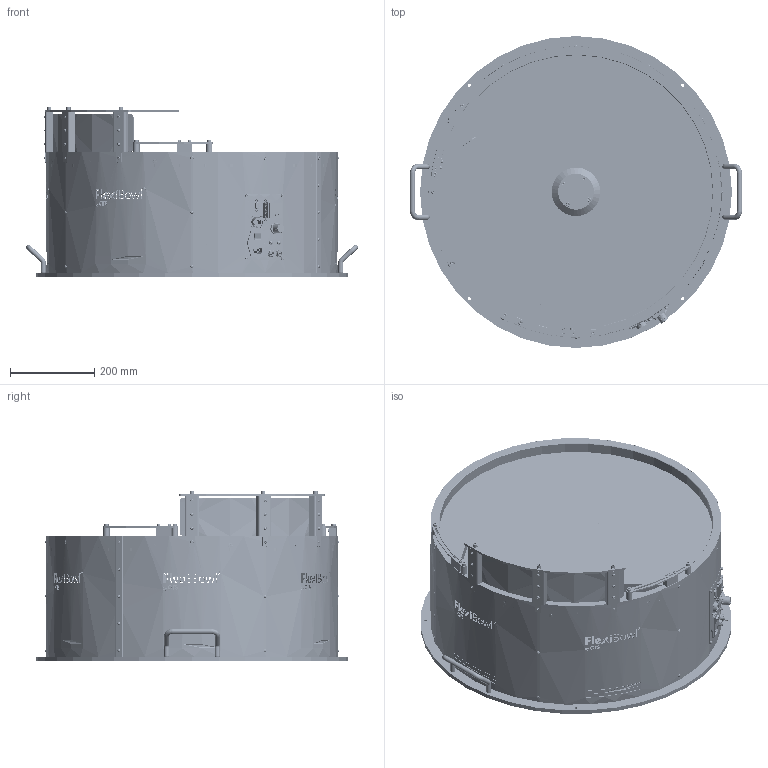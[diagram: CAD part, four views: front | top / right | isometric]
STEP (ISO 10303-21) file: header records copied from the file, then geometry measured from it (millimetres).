
FILE_DESCRIPTION (( 'STEP AP214' ), '1' );
FILE_NAME ('FB650C.STEP', '2021-09-09T13:27:33', ( '' ), ( '' ), 'SwSTEP 2.0', 'SolidWorks 2020', '' );
FILE_SCHEMA (( 'AUTOMOTIVE_DESIGN' ));
Length unit declared in the file: millimetre
Products named in the file (70): PD001120; PD001742; CM000032; CM000015; Copia di connector_amet-15rs^CE000302; PD001119; PD001583; PD001654; CM000024; CM000025; CM000015_001; CM000686; CM000008; CE000007; CM000166; CM000686_002; CM000027; Copia di 39-01-2045^CE000326; PD001122; CM000006; CM000008_002; PD001794; PD001741; CM000050; PD001103; PD001121; PD001440; Copia di Led RDY_FLT^CE000326; PD001360_FB650; CM000170; CM000642; CE000326; PD000032; CM000035; CE000302; PD001356; Copia di CE000327^CE000327; CM000001; Copia di 39-01-2025^CE000302; CM000015_002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
Assembly tree (200 placements, depth 3):
  FB650C
    CM000032  x4
    CM000048  x28
    CM000031  x9
    CM000050  x3
    CM000170  x6
    CM000166  x8
    CM000642  x4
    CM000035  x4
    CM000027  x4
    CM000478  x9
    CM000091  x2
    CM000086  x15
    CM000051  x4
    CM000025  x4
    CM000043  x2
    CM000026  x10
    CM000024  x10
    CM000006  x4
    PD001096
    CM000001  x2
    PD001742
    PD001440  x6
    PD001741
    PD001736  x2
    PD001654
    PD001356
    PD000709
    PD001794
    PD000032
    PD001102
    PD001103
    PD001585  x3
    PD001583  x3
    PD001061
    PD000043  x4
    PD001121  x2
    PD001119  x2
    PD001122
    PD001120
    PD001360_FB650
    CE000007
    CM000015  x2
      CM000015_001
      CM000015_002
    CE000013  x2
    CE000005
    CM000008
      CM000008_001
      CM000008_003  x2
      CM000008_002
      CM000008_004
      CM000008_005
    CE000302
      Copia di connector_a-ds_25_pp-f^CE000302
      Copia di 15 poli femmina^CE000302
      Copia di connector_amet-15rs^CE000302
      Copia di Connettore te 2 poli - Copia^CE000302
      Copia di 39-01-2025^CE000302
    CM000686
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Bounding box: 787.87 x 740 x 402.5 mm (x, y, z)
Volume: 10664682.5 mm3; surface area: 4435106.4 mm2
Topology: 208 solids, 208 shells, 10286 faces, 26364 edges, 16861 vertices
Faces by surface type: plane 5233, cylinder 2382, cone 1239, bspline 861, torus 531, sphere 40
Entity records: 311151 total; most frequent: CARTESIAN_POINT 98023, ORIENTED_EDGE 38408, DIRECTION 33475, EDGE_CURVE 19204, VERTEX_POINT 12803, AXIS2_PLACEMENT_3D 11424, LINE 10627, VECTOR 10627
